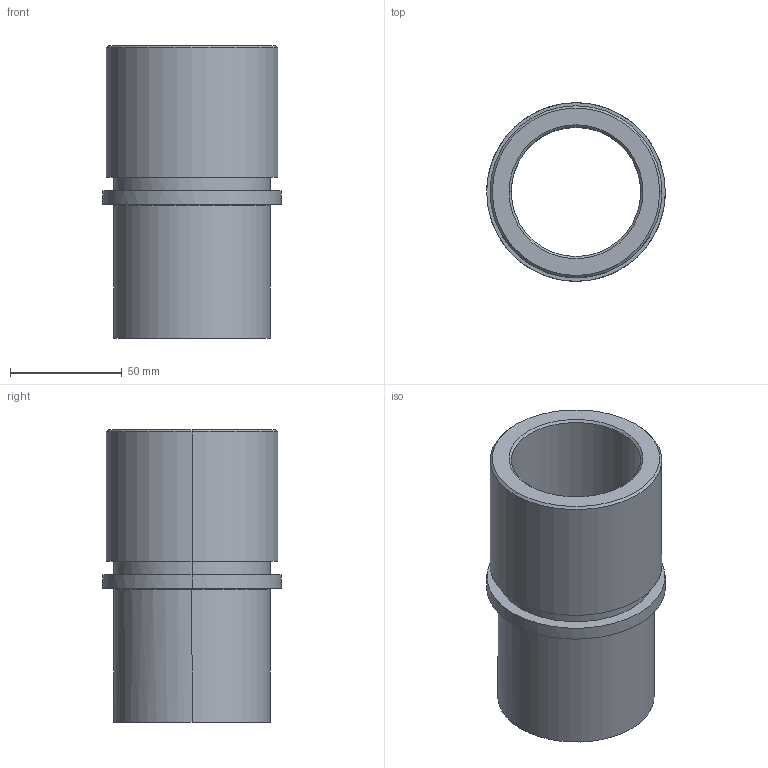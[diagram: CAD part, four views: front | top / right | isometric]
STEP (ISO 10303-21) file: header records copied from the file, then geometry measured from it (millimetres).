
FILE_DESCRIPTION(('CATIA V5 STEP Exchange'),'2;1');
FILE_NAME('C:\Users\Utente\Desktop\IO LAVORO\3D X SITO CF\X SITO\734\734-50.stp','2021-01-11T19:09:52+00:00',('none'),('none'),'CATIA Version 5 Release 20 GA (IN-10)','CATIA V5 STEP AP203','none');
FILE_SCHEMA(('CONFIG_CONTROL_DESIGN'));
Length unit declared in the file: millimetre
Products named in the file (1): 734-50
Assembly tree (1 placements, depth 2):
  734-50
    #58
Bounding box: 80 x 80 x 131 mm (x, y, z)
Volume: 212295.3 mm3; surface area: 60550.1 mm2
Topology: 1 solids, 1 shells, 25 faces, 50 edges, 30 vertices
Faces by surface type: cylinder 10, cone 6, plane 5, torus 4
Entity records: 851 total; most frequent: CARTESIAN_POINT 282, ORIENTED_EDGE 100, DIRECTION 96, AXIS2_PLACEMENT_3D 53, EDGE_CURVE 50, EDGE_LOOP 30, VERTEX_POINT 30, CIRCLE 26
